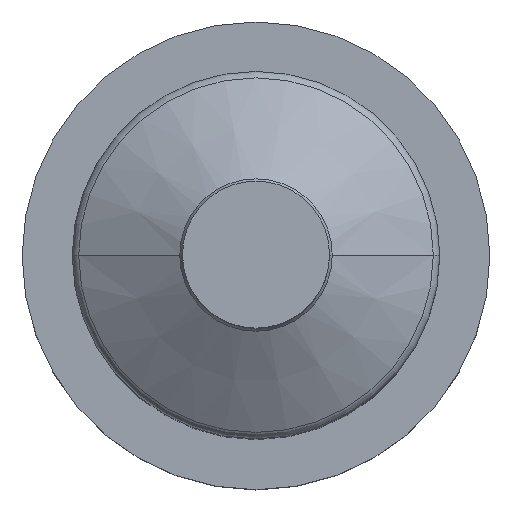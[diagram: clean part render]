
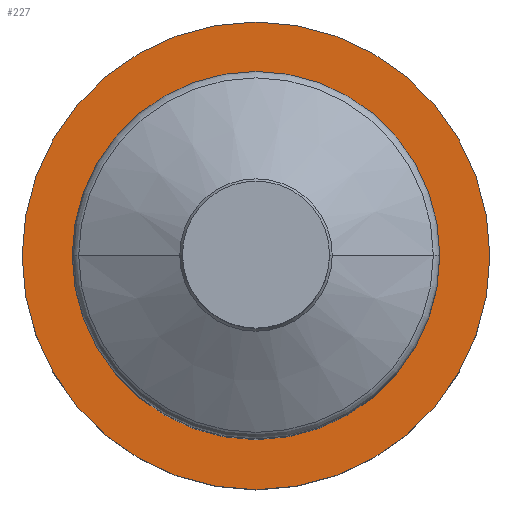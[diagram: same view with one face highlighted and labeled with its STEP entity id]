
A CAD part, top view. The second image highlights one B-rep face of the part: STEP entity #227.
In plain terms, the highlighted planar face has unit normal (0, 0, 1).
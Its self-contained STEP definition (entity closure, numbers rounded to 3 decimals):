
#4 = CIRCLE ( 'NONE', #7, 35. ) ;
#5 = VERTEX_POINT ( 'NONE', #237 ) ;
#7 = AXIS2_PLACEMENT_3D ( 'NONE', #66, #233, #445 ) ;
#13 = CARTESIAN_POINT ( 'NONE',  ( 0., 0., 35. ) ) ;
#14 = CIRCLE ( 'NONE', #373, 35. ) ;
#20 = DIRECTION ( 'NONE',  ( -1., 0., 0. ) ) ;
#28 = ORIENTED_EDGE ( 'NONE', *, *, #32, .F. ) ;
#32 = EDGE_CURVE ( 'NONE', #124, #205, #75, .T. ) ;
#50 = AXIS2_PLACEMENT_3D ( 'NONE', #13, #338, #254 ) ;
#66 = CARTESIAN_POINT ( 'NONE',  ( 0., 0., 35. ) ) ;
#75 = CIRCLE ( 'NONE', #50, 27.5 ) ;
#85 = EDGE_LOOP ( 'NONE', ( #421, #238 ) ) ;
#86 = DIRECTION ( 'NONE',  ( 0., 0., 1. ) ) ;
#124 = VERTEX_POINT ( 'NONE', #147 ) ;
#147 = CARTESIAN_POINT ( 'NONE',  ( -27.5, 0., 35. ) ) ;
#162 = VERTEX_POINT ( 'NONE', #220 ) ;
#177 = DIRECTION ( 'NONE',  ( -1., 0., 0. ) ) ;
#184 = EDGE_CURVE ( 'NONE', #162, #5, #14, .T. ) ;
#186 = CARTESIAN_POINT ( 'NONE',  ( 0., 0., 35. ) ) ;
#205 = VERTEX_POINT ( 'NONE', #433 ) ;
#220 = CARTESIAN_POINT ( 'NONE',  ( -35., 0., 35. ) ) ;
#227 = ADVANCED_FACE ( 'NONE', ( #316, #309 ), #289, .T. ) ;
#228 = DIRECTION ( 'NONE',  ( -1., 0., 0. ) ) ;
#231 = ORIENTED_EDGE ( 'NONE', *, *, #236, .F. ) ;
#233 = DIRECTION ( 'NONE',  ( 0., 0., 1. ) ) ;
#236 = EDGE_CURVE ( 'NONE', #205, #124, #291, .T. ) ;
#237 = CARTESIAN_POINT ( 'NONE',  ( 35., 0., 35. ) ) ;
#238 = ORIENTED_EDGE ( 'NONE', *, *, #184, .T. ) ;
#249 = CARTESIAN_POINT ( 'NONE',  ( 0., 0., 35. ) ) ;
#254 = DIRECTION ( 'NONE',  ( -1., 0., 0. ) ) ;
#261 = AXIS2_PLACEMENT_3D ( 'NONE', #186, #437, #228 ) ;
#289 = PLANE ( 'NONE',  #261 ) ;
#291 = CIRCLE ( 'NONE', #386, 27.5 ) ;
#309 = FACE_BOUND ( 'NONE', #444, .T. ) ;
#316 = FACE_OUTER_BOUND ( 'NONE', #85, .T. ) ;
#338 = DIRECTION ( 'NONE',  ( 0., 0., 1. ) ) ;
#350 = EDGE_CURVE ( 'NONE', #5, #162, #4, .T. ) ;
#366 = DIRECTION ( 'NONE',  ( 0., 0., 1. ) ) ;
#373 = AXIS2_PLACEMENT_3D ( 'NONE', #249, #86, #177 ) ;
#386 = AXIS2_PLACEMENT_3D ( 'NONE', #401, #366, #20 ) ;
#401 = CARTESIAN_POINT ( 'NONE',  ( 0., 0., 35. ) ) ;
#421 = ORIENTED_EDGE ( 'NONE', *, *, #350, .T. ) ;
#433 = CARTESIAN_POINT ( 'NONE',  ( 27.5, 0., 35. ) ) ;
#437 = DIRECTION ( 'NONE',  ( 0., 0., 1. ) ) ;
#444 = EDGE_LOOP ( 'NONE', ( #231, #28 ) ) ;
#445 = DIRECTION ( 'NONE',  ( -1., 0., 0. ) ) ;
